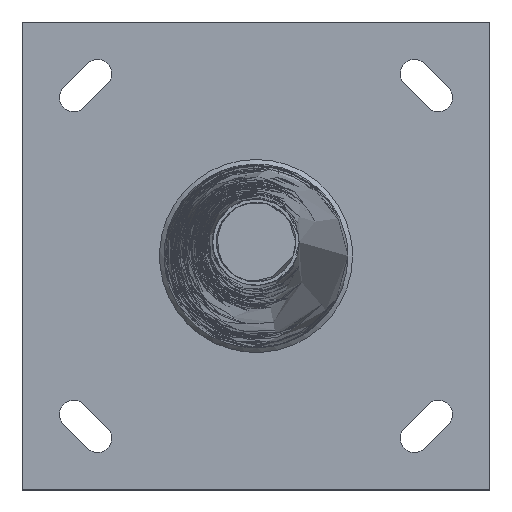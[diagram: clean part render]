
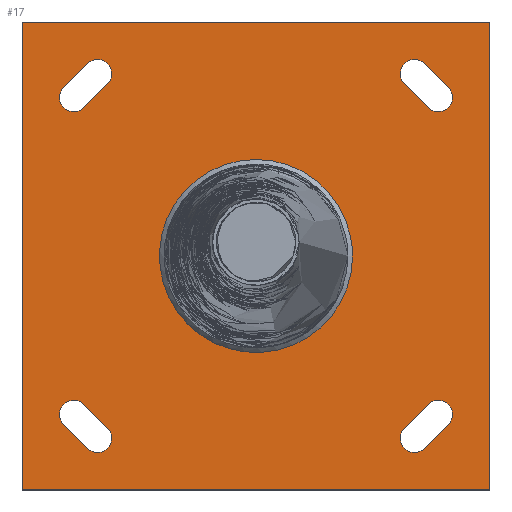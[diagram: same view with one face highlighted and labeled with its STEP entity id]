
A CAD part, top view. The second image highlights one B-rep face of the part: STEP entity #17.
In plain terms, the highlighted planar face has unit normal (0, 0, 1).
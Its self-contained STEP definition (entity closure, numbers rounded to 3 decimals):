
#17 = ADVANCED_FACE('',(#18,#57,#91,#127,#163,#199),#235,.T.);
#18 = FACE_BOUND('',#19,.T.);
#19 = EDGE_LOOP('',(#20));
#20 = ORIENTED_EDGE('',*,*,#21,.T.);
#21 = EDGE_CURVE('',#22,#22,#24,.T.);
#22 = VERTEX_POINT('',#23);
#23 = CARTESIAN_POINT('',(84.969,0.,5.));
#24 = B_SPLINE_CURVE_WITH_KNOTS('',11,(#25,#26,#27,#28,#29,#30,#31,#32,
    #33,#34,#35,#36,#37,#38,#39,#40,#41,#42,#43,#44,#45,#46,#47,#48,#49,
    #50,#51,#52,#53,#54,#55,#56),.UNSPECIFIED.,.T.,.F.,(12,10,10,12),(
    0.,127.237,254.423,508.745),
  .UNSPECIFIED.);
#25 = CARTESIAN_POINT('',(84.969,0.,5.));
#26 = CARTESIAN_POINT('',(84.969,-12.138,5.));
#27 = CARTESIAN_POINT('',(83.062,-24.277,5.)
  );
#28 = CARTESIAN_POINT('',(79.247,-36.081,5.
    ));
#29 = CARTESIAN_POINT('',(73.59,-47.225,5.
    ));
#30 = CARTESIAN_POINT('',(66.222,-57.372,5.)
  );
#31 = CARTESIAN_POINT('',(57.335,-66.261,5.
    ));
#32 = CARTESIAN_POINT('',(47.175,-73.618,5.)
  );
#33 = CARTESIAN_POINT('',(36.032,-79.27,5.
    ));
#34 = CARTESIAN_POINT('',(24.225,-83.077,5.
    ));
#35 = CARTESIAN_POINT('',(12.085,-84.977,5.));
#36 = CARTESIAN_POINT('',(-12.187,-84.962,5.));
#37 = CARTESIAN_POINT('',(-24.32,-83.048,5.
    ));
#38 = CARTESIAN_POINT('',(-36.118,-79.229,5.
    ));
#39 = CARTESIAN_POINT('',(-47.25,-73.569,5.
    ));
#40 = CARTESIAN_POINT('',(-57.398,-66.2,5.
    ));
#41 = CARTESIAN_POINT('',(-66.273,-57.314,5.
    ));
#42 = CARTESIAN_POINT('',(-73.629,-47.157,5.
    ));
#43 = CARTESIAN_POINT('',(-79.274,-36.018,5.)
  );
#44 = CARTESIAN_POINT('',(-83.079,-24.215,5.
    ));
#45 = CARTESIAN_POINT('',(-84.977,-12.08,5.));
#46 = CARTESIAN_POINT('',(-84.954,24.316,5.));
#47 = CARTESIAN_POINT('',(-77.318,48.573,5.)
  );
#48 = CARTESIAN_POINT('',(-62.063,70.167,5.
    ));
#49 = CARTESIAN_POINT('',(-40.235,86.436,5.)
  );
#50 = CARTESIAN_POINT('',(-13.923,95.194,5.
    ));
#51 = CARTESIAN_POINT('',(13.983,95.184,5.)
  );
#52 = CARTESIAN_POINT('',(40.29,86.41,5.
    ));
#53 = CARTESIAN_POINT('',(62.107,70.128,5.
    ));
#54 = CARTESIAN_POINT('',(77.349,48.524,5.)
  );
#55 = CARTESIAN_POINT('',(84.969,24.262,5.));
#56 = CARTESIAN_POINT('',(84.969,0.,5.));
#57 = FACE_BOUND('',#58,.T.);
#58 = EDGE_LOOP('',(#59,#69,#77,#85));
#59 = ORIENTED_EDGE('',*,*,#60,.T.);
#60 = EDGE_CURVE('',#61,#63,#65,.T.);
#61 = VERTEX_POINT('',#62);
#62 = CARTESIAN_POINT('',(-206.,206.,5.));
#63 = VERTEX_POINT('',#64);
#64 = CARTESIAN_POINT('',(-206.,-206.,5.));
#65 = LINE('',#66,#67);
#66 = CARTESIAN_POINT('',(-206.,206.,5.));
#67 = VECTOR('',#68,1.);
#68 = DIRECTION('',(0.,-1.,0.));
#69 = ORIENTED_EDGE('',*,*,#70,.T.);
#70 = EDGE_CURVE('',#63,#71,#73,.T.);
#71 = VERTEX_POINT('',#72);
#72 = CARTESIAN_POINT('',(206.,-206.,5.));
#73 = LINE('',#74,#75);
#74 = CARTESIAN_POINT('',(-206.,-206.,5.));
#75 = VECTOR('',#76,1.);
#76 = DIRECTION('',(1.,0.,0.));
#77 = ORIENTED_EDGE('',*,*,#78,.T.);
#78 = EDGE_CURVE('',#71,#79,#81,.T.);
#79 = VERTEX_POINT('',#80);
#80 = CARTESIAN_POINT('',(206.,206.,5.));
#81 = LINE('',#82,#83);
#82 = CARTESIAN_POINT('',(206.,-206.,5.));
#83 = VECTOR('',#84,1.);
#84 = DIRECTION('',(0.,1.,0.));
#85 = ORIENTED_EDGE('',*,*,#86,.T.);
#86 = EDGE_CURVE('',#79,#61,#87,.T.);
#87 = LINE('',#88,#89);
#88 = CARTESIAN_POINT('',(206.,206.,5.));
#89 = VECTOR('',#90,1.);
#90 = DIRECTION('',(-1.,0.,0.));
#91 = FACE_BOUND('',#92,.T.);
#92 = EDGE_LOOP('',(#93,#104,#112,#121));
#93 = ORIENTED_EDGE('',*,*,#94,.F.);
#94 = EDGE_CURVE('',#95,#97,#99,.T.);
#95 = VERTEX_POINT('',#96);
#96 = CARTESIAN_POINT('',(-151.768,-130.555,5.));
#97 = VERTEX_POINT('',#98);
#98 = CARTESIAN_POINT('',(-169.445,-148.232,5.));
#99 = CIRCLE('',#100,12.5);
#100 = AXIS2_PLACEMENT_3D('',#101,#102,#103);
#101 = CARTESIAN_POINT('',(-160.607,-139.393,5.));
#102 = DIRECTION('',(0.,-0.,1.));
#103 = DIRECTION('',(0.,1.,0.));
#104 = ORIENTED_EDGE('',*,*,#105,.T.);
#105 = EDGE_CURVE('',#95,#106,#108,.T.);
#106 = VERTEX_POINT('',#107);
#107 = CARTESIAN_POINT('',(-130.555,-151.768,5.));
#108 = LINE('',#109,#110);
#109 = CARTESIAN_POINT('',(-151.768,-130.555,5.));
#110 = VECTOR('',#111,1.);
#111 = DIRECTION('',(0.707,-0.707,0.));
#112 = ORIENTED_EDGE('',*,*,#113,.F.);
#113 = EDGE_CURVE('',#114,#106,#116,.T.);
#114 = VERTEX_POINT('',#115);
#115 = CARTESIAN_POINT('',(-148.232,-169.445,5.));
#116 = CIRCLE('',#117,12.5);
#117 = AXIS2_PLACEMENT_3D('',#118,#119,#120);
#118 = CARTESIAN_POINT('',(-139.393,-160.607,5.));
#119 = DIRECTION('',(0.,-0.,1.));
#120 = DIRECTION('',(0.,1.,0.));
#121 = ORIENTED_EDGE('',*,*,#122,.F.);
#122 = EDGE_CURVE('',#97,#114,#123,.T.);
#123 = LINE('',#124,#125);
#124 = CARTESIAN_POINT('',(-169.445,-148.232,5.));
#125 = VECTOR('',#126,1.);
#126 = DIRECTION('',(0.707,-0.707,0.));
#127 = FACE_BOUND('',#128,.T.);
#128 = EDGE_LOOP('',(#129,#140,#148,#157));
#129 = ORIENTED_EDGE('',*,*,#130,.F.);
#130 = EDGE_CURVE('',#131,#133,#135,.T.);
#131 = VERTEX_POINT('',#132);
#132 = CARTESIAN_POINT('',(130.555,-151.768,5.));
#133 = VERTEX_POINT('',#134);
#134 = CARTESIAN_POINT('',(148.232,-169.445,5.));
#135 = CIRCLE('',#136,12.5);
#136 = AXIS2_PLACEMENT_3D('',#137,#138,#139);
#137 = CARTESIAN_POINT('',(139.393,-160.607,5.));
#138 = DIRECTION('',(0.,0.,1.));
#139 = DIRECTION('',(-1.,0.,0.));
#140 = ORIENTED_EDGE('',*,*,#141,.T.);
#141 = EDGE_CURVE('',#131,#142,#144,.T.);
#142 = VERTEX_POINT('',#143);
#143 = CARTESIAN_POINT('',(151.768,-130.555,5.));
#144 = LINE('',#145,#146);
#145 = CARTESIAN_POINT('',(130.555,-151.768,5.));
#146 = VECTOR('',#147,1.);
#147 = DIRECTION('',(0.707,0.707,0.));
#148 = ORIENTED_EDGE('',*,*,#149,.F.);
#149 = EDGE_CURVE('',#150,#142,#152,.T.);
#150 = VERTEX_POINT('',#151);
#151 = CARTESIAN_POINT('',(169.445,-148.232,5.));
#152 = CIRCLE('',#153,12.5);
#153 = AXIS2_PLACEMENT_3D('',#154,#155,#156);
#154 = CARTESIAN_POINT('',(160.607,-139.393,5.));
#155 = DIRECTION('',(0.,0.,1.));
#156 = DIRECTION('',(-1.,0.,0.));
#157 = ORIENTED_EDGE('',*,*,#158,.F.);
#158 = EDGE_CURVE('',#133,#150,#159,.T.);
#159 = LINE('',#160,#161);
#160 = CARTESIAN_POINT('',(148.232,-169.445,5.));
#161 = VECTOR('',#162,1.);
#162 = DIRECTION('',(0.707,0.707,0.));
#163 = FACE_BOUND('',#164,.T.);
#164 = EDGE_LOOP('',(#165,#176,#184,#193));
#165 = ORIENTED_EDGE('',*,*,#166,.F.);
#166 = EDGE_CURVE('',#167,#169,#171,.T.);
#167 = VERTEX_POINT('',#168);
#168 = CARTESIAN_POINT('',(-130.555,151.768,5.));
#169 = VERTEX_POINT('',#170);
#170 = CARTESIAN_POINT('',(-148.232,169.445,5.));
#171 = CIRCLE('',#172,12.5);
#172 = AXIS2_PLACEMENT_3D('',#173,#174,#175);
#173 = CARTESIAN_POINT('',(-139.393,160.607,5.));
#174 = DIRECTION('',(0.,0.,1.));
#175 = DIRECTION('',(1.,0.,0.));
#176 = ORIENTED_EDGE('',*,*,#177,.T.);
#177 = EDGE_CURVE('',#167,#178,#180,.T.);
#178 = VERTEX_POINT('',#179);
#179 = CARTESIAN_POINT('',(-151.768,130.555,5.));
#180 = LINE('',#181,#182);
#181 = CARTESIAN_POINT('',(-130.555,151.768,5.));
#182 = VECTOR('',#183,1.);
#183 = DIRECTION('',(-0.707,-0.707,0.));
#184 = ORIENTED_EDGE('',*,*,#185,.F.);
#185 = EDGE_CURVE('',#186,#178,#188,.T.);
#186 = VERTEX_POINT('',#187);
#187 = CARTESIAN_POINT('',(-169.445,148.232,5.));
#188 = CIRCLE('',#189,12.5);
#189 = AXIS2_PLACEMENT_3D('',#190,#191,#192);
#190 = CARTESIAN_POINT('',(-160.607,139.393,5.));
#191 = DIRECTION('',(0.,0.,1.));
#192 = DIRECTION('',(1.,0.,0.));
#193 = ORIENTED_EDGE('',*,*,#194,.F.);
#194 = EDGE_CURVE('',#169,#186,#195,.T.);
#195 = LINE('',#196,#197);
#196 = CARTESIAN_POINT('',(-148.232,169.445,5.));
#197 = VECTOR('',#198,1.);
#198 = DIRECTION('',(-0.707,-0.707,0.));
#199 = FACE_BOUND('',#200,.T.);
#200 = EDGE_LOOP('',(#201,#212,#220,#229));
#201 = ORIENTED_EDGE('',*,*,#202,.F.);
#202 = EDGE_CURVE('',#203,#205,#207,.T.);
#203 = VERTEX_POINT('',#204);
#204 = CARTESIAN_POINT('',(151.768,130.555,5.));
#205 = VERTEX_POINT('',#206);
#206 = CARTESIAN_POINT('',(169.445,148.232,5.));
#207 = CIRCLE('',#208,12.5);
#208 = AXIS2_PLACEMENT_3D('',#209,#210,#211);
#209 = CARTESIAN_POINT('',(160.607,139.393,5.));
#210 = DIRECTION('',(0.,0.,1.));
#211 = DIRECTION('',(0.,-1.,0.));
#212 = ORIENTED_EDGE('',*,*,#213,.T.);
#213 = EDGE_CURVE('',#203,#214,#216,.T.);
#214 = VERTEX_POINT('',#215);
#215 = CARTESIAN_POINT('',(130.555,151.768,5.));
#216 = LINE('',#217,#218);
#217 = CARTESIAN_POINT('',(151.768,130.555,5.));
#218 = VECTOR('',#219,1.);
#219 = DIRECTION('',(-0.707,0.707,0.));
#220 = ORIENTED_EDGE('',*,*,#221,.F.);
#221 = EDGE_CURVE('',#222,#214,#224,.T.);
#222 = VERTEX_POINT('',#223);
#223 = CARTESIAN_POINT('',(148.232,169.445,5.));
#224 = CIRCLE('',#225,12.5);
#225 = AXIS2_PLACEMENT_3D('',#226,#227,#228);
#226 = CARTESIAN_POINT('',(139.393,160.607,5.));
#227 = DIRECTION('',(0.,0.,1.));
#228 = DIRECTION('',(0.,-1.,0.));
#229 = ORIENTED_EDGE('',*,*,#230,.F.);
#230 = EDGE_CURVE('',#205,#222,#231,.T.);
#231 = LINE('',#232,#233);
#232 = CARTESIAN_POINT('',(169.445,148.232,5.));
#233 = VECTOR('',#234,1.);
#234 = DIRECTION('',(-0.707,0.707,0.));
#235 = PLANE('',#236);
#236 = AXIS2_PLACEMENT_3D('',#237,#238,#239);
#237 = CARTESIAN_POINT('',(0.,0.,5.));
#238 = DIRECTION('',(0.,0.,1.));
#239 = DIRECTION('',(1.,0.,0.));
